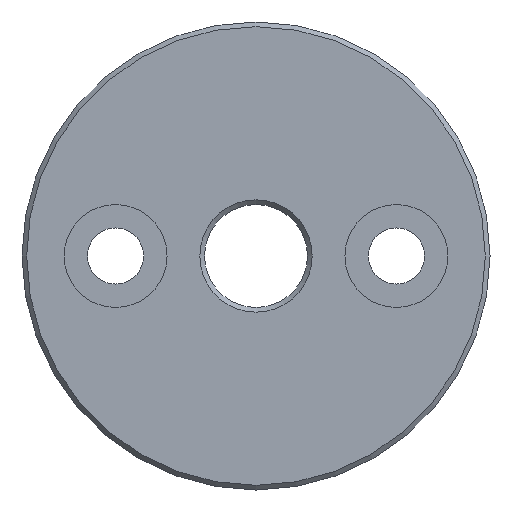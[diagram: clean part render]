
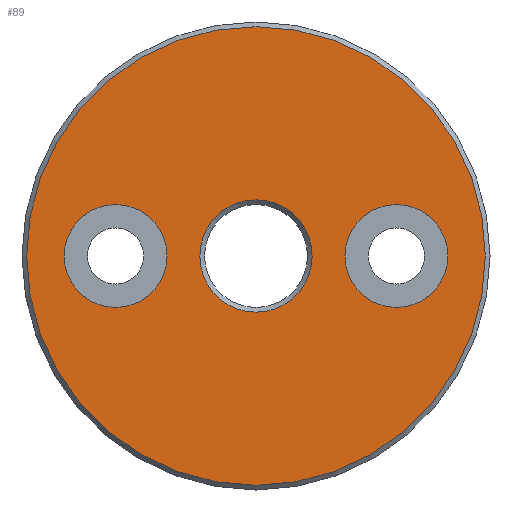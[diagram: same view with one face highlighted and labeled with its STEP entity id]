
A CAD part, front view. The second image highlights one B-rep face of the part: STEP entity #89.
In plain terms, the highlighted planar face has unit normal (0, -1, 0).
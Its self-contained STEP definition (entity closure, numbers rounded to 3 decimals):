
#5 = VERTEX_POINT ( 'NONE', #122 ) ;
#6 = EDGE_LOOP ( 'NONE', ( #8 ) ) ;
#8 = ORIENTED_EDGE ( 'NONE', *, *, #209, .T. ) ;
#11 = CIRCLE ( 'NONE', #126, 9.8 ) ;
#19 = CARTESIAN_POINT ( 'NONE',  ( 0., -2.5, 0. ) ) ;
#22 = DIRECTION ( 'NONE',  ( 0., 0., 1. ) ) ;
#24 = DIRECTION ( 'NONE',  ( 0., 1., 0. ) ) ;
#33 = ORIENTED_EDGE ( 'NONE', *, *, #38, .F. ) ;
#38 = EDGE_CURVE ( 'NONE', #259, #259, #262, .T. ) ;
#39 = DIRECTION ( 'NONE',  ( 0., 0., -1. ) ) ;
#43 = FACE_BOUND ( 'NONE', #358, .T. ) ;
#46 = DIRECTION ( 'NONE',  ( 0., -1., 0. ) ) ;
#59 = CARTESIAN_POINT ( 'NONE',  ( 0., -2.5, 0. ) ) ;
#60 = ORIENTED_EDGE ( 'NONE', *, *, #333, .T. ) ;
#87 = EDGE_LOOP ( 'NONE', ( #60 ) ) ;
#89 = ADVANCED_FACE ( 'NONE', ( #43, #96, #298, #99 ), #161, .F. ) ;
#93 = ORIENTED_EDGE ( 'NONE', *, *, #291, .F. ) ;
#96 = FACE_BOUND ( 'NONE', #124, .T. ) ;
#99 = FACE_BOUND ( 'NONE', #6, .T. ) ;
#109 = DIRECTION ( 'NONE',  ( 0., 0., -1. ) ) ;
#122 = CARTESIAN_POINT ( 'NONE',  ( -6., -2.5, -2.2 ) ) ;
#124 = EDGE_LOOP ( 'NONE', ( #93 ) ) ;
#126 = AXIS2_PLACEMENT_3D ( 'NONE', #59, #314, #176 ) ;
#129 = CARTESIAN_POINT ( 'NONE',  ( 6., -2.5, 0. ) ) ;
#137 = CIRCLE ( 'NONE', #249, 2.2 ) ;
#160 = DIRECTION ( 'NONE',  ( 0., -1., 0. ) ) ;
#161 = PLANE ( 'NONE',  #224 ) ;
#176 = DIRECTION ( 'NONE',  ( 0., 0., 1. ) ) ;
#188 = CIRCLE ( 'NONE', #245, 2.4 ) ;
#209 = EDGE_CURVE ( 'NONE', #282, #282, #188, .T. ) ;
#215 = DIRECTION ( 'NONE',  ( 0., 0., 1. ) ) ;
#218 = CARTESIAN_POINT ( 'NONE',  ( 0., -2.5, 0. ) ) ;
#224 = AXIS2_PLACEMENT_3D ( 'NONE', #19, #322, #215 ) ;
#226 = VERTEX_POINT ( 'NONE', #256 ) ;
#229 = CARTESIAN_POINT ( 'NONE',  ( 0., -2.5, 2.4 ) ) ;
#245 = AXIS2_PLACEMENT_3D ( 'NONE', #218, #24, #22 ) ;
#249 = AXIS2_PLACEMENT_3D ( 'NONE', #359, #46, #109 ) ;
#256 = CARTESIAN_POINT ( 'NONE',  ( 0., -2.5, 9.8 ) ) ;
#259 = VERTEX_POINT ( 'NONE', #287 ) ;
#262 = CIRCLE ( 'NONE', #311, 2.2 ) ;
#282 = VERTEX_POINT ( 'NONE', #229 ) ;
#287 = CARTESIAN_POINT ( 'NONE',  ( 6., -2.5, -2.2 ) ) ;
#291 = EDGE_CURVE ( 'NONE', #5, #5, #137, .T. ) ;
#298 = FACE_OUTER_BOUND ( 'NONE', #87, .T. ) ;
#311 = AXIS2_PLACEMENT_3D ( 'NONE', #129, #160, #39 ) ;
#314 = DIRECTION ( 'NONE',  ( 0., -1., 0. ) ) ;
#322 = DIRECTION ( 'NONE',  ( 0., 1., 0. ) ) ;
#333 = EDGE_CURVE ( 'NONE', #226, #226, #11, .T. ) ;
#358 = EDGE_LOOP ( 'NONE', ( #33 ) ) ;
#359 = CARTESIAN_POINT ( 'NONE',  ( -6., -2.5, 0. ) ) ;
